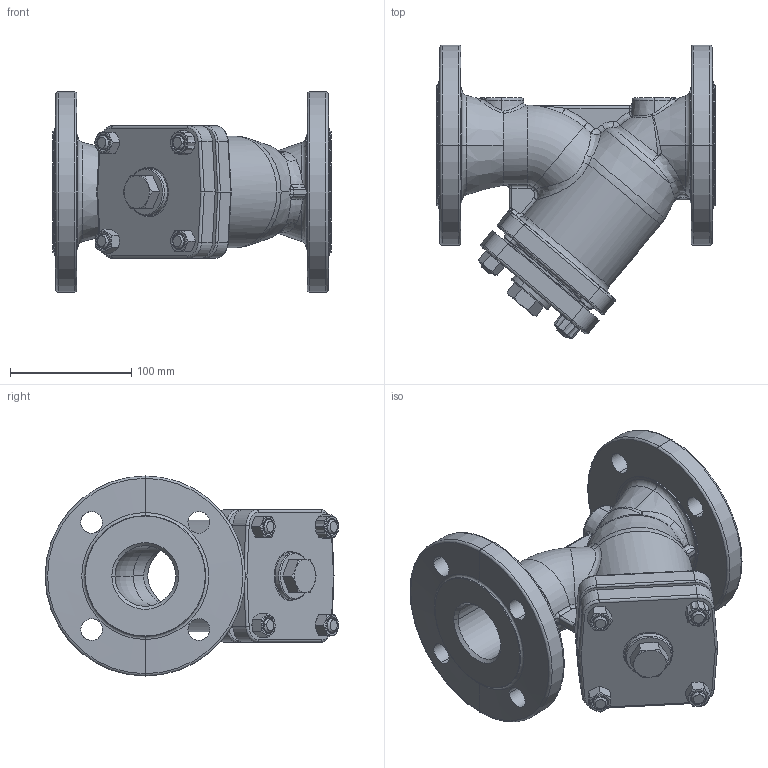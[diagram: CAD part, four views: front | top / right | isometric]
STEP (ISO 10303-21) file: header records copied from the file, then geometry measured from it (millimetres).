
FILE_DESCRIPTION (( 'STEP AP203' ), '1' );
FILE_NAME ('821_DN50 PN40.STEP', '2010-01-13T07:01:01', ( 'wtarnaws' ), ( '' ), 'SwSTEP 2.0', 'SolidWorks 2010', '' );
FILE_SCHEMA (( 'CONFIG_CONTROL_DESIGN' ));
Length unit declared in the file: millimetre
Products named in the file (6): Kad³ub 50 - z; Pokrywa 50; KOREK 1_Default; M12 x 35_PreviewCfg; Nakrêtka szeœciok¹tna PN-86_M-82144_M12; 821_DN50 PN40
Assembly tree (12 placements, depth 2):
  821_DN50 PN40
    M12 x 35_PreviewCfg  x4
    Pokrywa 50
    Nakrêtka szeœciok¹tna PN-86_M-82144_M12  x5
    Kad³ub 50 - z
    KOREK 1_Default
Bounding box: 230 x 242.09 x 165 mm (x, y, z)
Volume: 1565163 mm3; surface area: 282345.2 mm2
Topology: 12 solids, 12 shells, 584 faces, 1297 edges, 755 vertices
Faces by surface type: cylinder 161, cone 134, plane 101, bspline 96, torus 88, sphere 4
Entity records: 43688 total; most frequent: CARTESIAN_POINT 33820, ORIENTED_EDGE 1926, DIRECTION 1818, EDGE_CURVE 963, AXIS2_PLACEMENT_3D 789, VERTEX_POINT 563, EDGE_LOOP 474, CIRCLE 448
